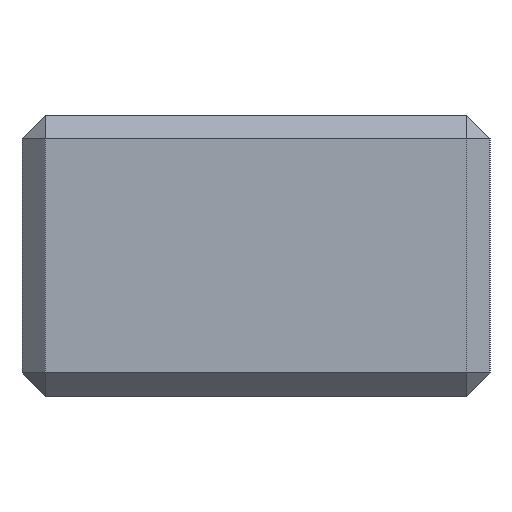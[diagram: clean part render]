
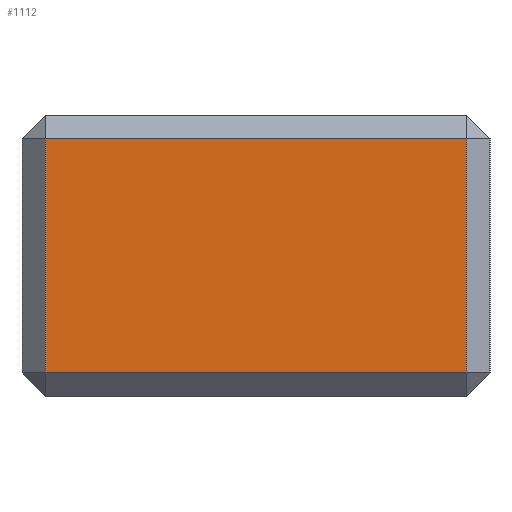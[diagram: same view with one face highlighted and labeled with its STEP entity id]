
A CAD part, left-side view. The second image highlights one B-rep face of the part: STEP entity #1112.
In plain terms, the highlighted planar face has unit normal (-1, 0, 0).
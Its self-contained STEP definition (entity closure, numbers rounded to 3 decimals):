
#4 = ORIENTED_EDGE ( 'NONE', *, *, #406, .T. ) ;
#22 = EDGE_CURVE ( 'NONE', #855, #1139, #859, .T. ) ;
#128 = DIRECTION ( 'NONE',  ( 0., 0., 1. ) ) ;
#179 = DIRECTION ( 'NONE',  ( 0., 1., 0. ) ) ;
#205 = EDGE_CURVE ( 'NONE', #1139, #608, #910, .T. ) ;
#220 = CARTESIAN_POINT ( 'NONE',  ( -31.5, -9., 12. ) ) ;
#267 = VECTOR ( 'NONE', #179, 1000. ) ;
#279 = LINE ( 'NONE', #220, #944 ) ;
#329 = CARTESIAN_POINT ( 'NONE',  ( -31.5, -10., 1. ) ) ;
#384 = PLANE ( 'NONE',  #431 ) ;
#402 = VECTOR ( 'NONE', #1149, 1000. ) ;
#406 = EDGE_CURVE ( 'NONE', #608, #687, #279, .T. ) ;
#431 = AXIS2_PLACEMENT_3D ( 'NONE', #509, #946, #981 ) ;
#456 = ORIENTED_EDGE ( 'NONE', *, *, #695, .T. ) ;
#472 = CARTESIAN_POINT ( 'NONE',  ( -31.5, 9., 1. ) ) ;
#509 = CARTESIAN_POINT ( 'NONE',  ( -31.5, -10., 12. ) ) ;
#527 = CARTESIAN_POINT ( 'NONE',  ( -31.5, 9., 12. ) ) ;
#608 = VERTEX_POINT ( 'NONE', #893 ) ;
#672 = ORIENTED_EDGE ( 'NONE', *, *, #22, .T. ) ;
#683 = DIRECTION ( 'NONE',  ( 0., -1., 0. ) ) ;
#687 = VERTEX_POINT ( 'NONE', #1154 ) ;
#695 = EDGE_CURVE ( 'NONE', #687, #855, #931, .T. ) ;
#793 = ORIENTED_EDGE ( 'NONE', *, *, #205, .T. ) ;
#855 = VERTEX_POINT ( 'NONE', #928 ) ;
#859 = LINE ( 'NONE', #527, #402 ) ;
#877 = VECTOR ( 'NONE', #683, 1000. ) ;
#893 = CARTESIAN_POINT ( 'NONE',  ( -31.5, -9., 1. ) ) ;
#910 = LINE ( 'NONE', #329, #877 ) ;
#928 = CARTESIAN_POINT ( 'NONE',  ( -31.5, 9., 11. ) ) ;
#931 = LINE ( 'NONE', #961, #267 ) ;
#944 = VECTOR ( 'NONE', #128, 1000. ) ;
#946 = DIRECTION ( 'NONE',  ( 1., 0., 0. ) ) ;
#961 = CARTESIAN_POINT ( 'NONE',  ( -31.5, 10., 11. ) ) ;
#981 = DIRECTION ( 'NONE',  ( 0., 0., -1. ) ) ;
#1041 = EDGE_LOOP ( 'NONE', ( #672, #793, #4, #456 ) ) ;
#1049 = FACE_OUTER_BOUND ( 'NONE', #1041, .T. ) ;
#1112 = ADVANCED_FACE ( 'NONE', ( #1049 ), #384, .F. ) ;
#1139 = VERTEX_POINT ( 'NONE', #472 ) ;
#1149 = DIRECTION ( 'NONE',  ( 0., 0., -1. ) ) ;
#1154 = CARTESIAN_POINT ( 'NONE',  ( -31.5, -9., 11. ) ) ;
